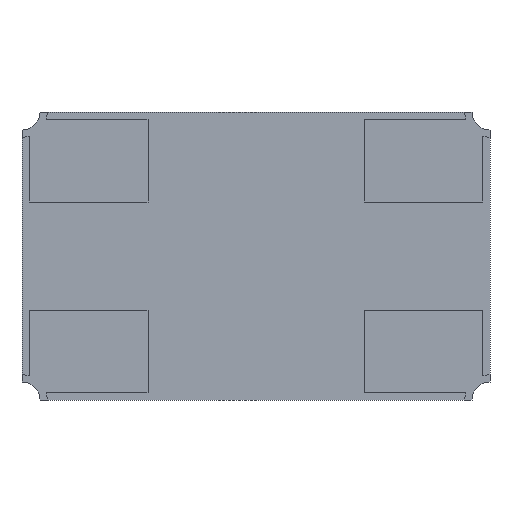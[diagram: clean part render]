
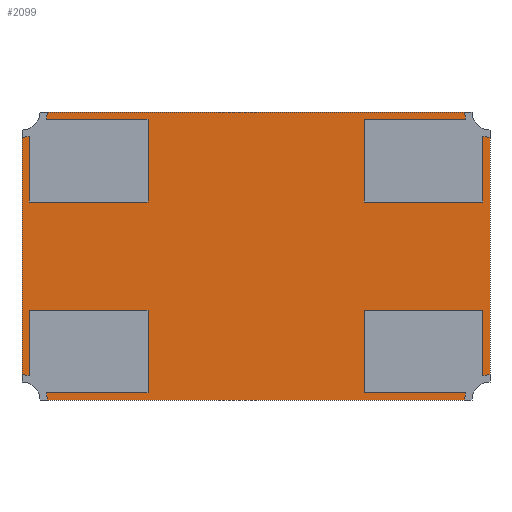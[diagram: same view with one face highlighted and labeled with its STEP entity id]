
A CAD part, front view. The second image highlights one B-rep face of the part: STEP entity #2099.
In plain terms, the highlighted planar face has unit normal (0, -1, 0).
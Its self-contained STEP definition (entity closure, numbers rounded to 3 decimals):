
#1558 = CARTESIAN_POINT ( 'NONE',  ( -3.25, 0.05, -1.75 ) ) ;
#1559 = VERTEX_POINT ( 'NONE', #1558 ) ;
#1560 = CARTESIAN_POINT ( 'NONE',  ( -3., 0.05, -2. ) ) ;
#1561 = VERTEX_POINT ( 'NONE', #1560 ) ;
#1562 = CARTESIAN_POINT ( 'NONE',  ( -3.25, 0.05, -2. ) ) ;
#1563 = DIRECTION ( 'NONE',  ( 0., 1., 0. ) ) ;
#1564 = DIRECTION ( 'NONE',  ( 0., 0., 1. ) ) ;
#1565 = AXIS2_PLACEMENT_3D ( 'NONE', #1562, #1563, #1564 ) ;
#1566 = CIRCLE ( 'NONE', #1565, 0.25) ;
#1567 = EDGE_CURVE ( 'NONE', #1559, #1561, #1566, .T. ) ;
#1822 = CARTESIAN_POINT ( 'NONE',  ( 3., 0.05, 2. ) ) ;
#1823 = VERTEX_POINT ( 'NONE', #1822 ) ;
#1830 = CARTESIAN_POINT ( 'NONE',  ( 3.25, 0.05, 1.75 ) ) ;
#1831 = VERTEX_POINT ( 'NONE', #1830 ) ;
#1832 = CARTESIAN_POINT ( 'NONE',  ( 3.25, 0.05, 2. ) ) ;
#1833 = DIRECTION ( 'NONE',  ( 0., 1., 0. ) ) ;
#1834 = DIRECTION ( 'NONE',  ( 0., 0., 1. ) ) ;
#1835 = AXIS2_PLACEMENT_3D ( 'NONE', #1832, #1833, #1834 ) ;
#1836 = CIRCLE ( 'NONE', #1835, 0.25) ;
#1837 = EDGE_CURVE ( 'NONE', #1831, #1823, #1836, .T. ) ;
#1978 = CARTESIAN_POINT ( 'NONE',  ( 3.25, 0.05, -1.75 ) ) ;
#1979 = VERTEX_POINT ( 'NONE', #1978 ) ;
#1980 = CARTESIAN_POINT ( 'NONE',  ( 3.25, 0.05, 2. ) ) ;
#1981 = DIRECTION ( 'NONE',  ( 0., 0., -1. ) ) ;
#1982 = VECTOR ( 'NONE', #1981, 1000. ) ;
#1983 = LINE ( 'NONE', #1980, #1982 ) ;
#1984 = EDGE_CURVE ( 'NONE', #1831, #1979, #1983, .T. ) ;
#2001 = CARTESIAN_POINT ( 'NONE',  ( 3., 0.05, -2. ) ) ;
#2002 = VERTEX_POINT ( 'NONE', #2001 ) ;
#2009 = CARTESIAN_POINT ( 'NONE',  ( -3.25, 0.05, -2. ) ) ;
#2010 = DIRECTION ( 'NONE',  ( -1., 0., 0. ) ) ;
#2011 = VECTOR ( 'NONE', #2010, 1000. ) ;
#2012 = LINE ( 'NONE', #2009, #2011 ) ;
#2013 = EDGE_CURVE ( 'NONE', #2002, #1561, #2012, .T. ) ;
#2024 = CARTESIAN_POINT ( 'NONE',  ( -3.25, 0.05, 1.75 ) ) ;
#2025 = VERTEX_POINT ( 'NONE', #2024 ) ;
#2026 = CARTESIAN_POINT ( 'NONE',  ( -3.25, 0.05, 2. ) ) ;
#2027 = DIRECTION ( 'NONE',  ( 0., 0., 1. ) ) ;
#2028 = VECTOR ( 'NONE', #2027, 1000. ) ;
#2029 = LINE ( 'NONE', #2026, #2028 ) ;
#2030 = EDGE_CURVE ( 'NONE', #1559, #2025, #2029, .T. ) ;
#2048 = CARTESIAN_POINT ( 'NONE',  ( -3., 0.05, 2. ) ) ;
#2049 = VERTEX_POINT ( 'NONE', #2048 ) ;
#2050 = CARTESIAN_POINT ( 'NONE',  ( -3.25, 0.05, 2. ) ) ;
#2051 = DIRECTION ( 'NONE',  ( 1., 0., 0. ) ) ;
#2052 = VECTOR ( 'NONE', #2051, 1000. ) ;
#2053 = LINE ( 'NONE', #2050, #2052 ) ;
#2054 = EDGE_CURVE ( 'NONE', #2049, #1823, #2053, .T. ) ;
#2072 = ORIENTED_EDGE ( 'NONE', *, *, #1837, .T. ) ;
#2073 = ORIENTED_EDGE ( 'NONE', *, *, #2054, .F. ) ;
#2074 = CARTESIAN_POINT ( 'NONE',  ( -3.25, 0.05, 2. ) ) ;
#2075 = DIRECTION ( 'NONE',  ( 0., 1., 0. ) ) ;
#2076 = DIRECTION ( 'NONE',  ( 0., 0., 1. ) ) ;
#2077 = AXIS2_PLACEMENT_3D ( 'NONE', #2074, #2075, #2076 ) ;
#2078 = CIRCLE ( 'NONE', #2077, 0.25) ;
#2079 = EDGE_CURVE ( 'NONE', #2049, #2025, #2078, .T. ) ;
#2080 = ORIENTED_EDGE ( 'NONE', *, *, #2079, .T. ) ;
#2081 = ORIENTED_EDGE ( 'NONE', *, *, #2030, .F. ) ;
#2082 = ORIENTED_EDGE ( 'NONE', *, *, #1567, .T. ) ;
#2083 = ORIENTED_EDGE ( 'NONE', *, *, #2013, .F. ) ;
#2084 = CARTESIAN_POINT ( 'NONE',  ( 3.25, 0.05, -2. ) ) ;
#2085 = DIRECTION ( 'NONE',  ( 0., -1., 0. ) ) ;
#2086 = DIRECTION ( 'NONE',  ( 0., 0., -1. ) ) ;
#2087 = AXIS2_PLACEMENT_3D ( 'NONE', #2084, #2085, #2086 ) ;
#2088 = CIRCLE ( 'NONE', #2087, 0.25) ;
#2089 = EDGE_CURVE ( 'NONE', #1979, #2002, #2088, .T. ) ;
#2090 = ORIENTED_EDGE ( 'NONE', *, *, #2089, .F. ) ;
#2091 = ORIENTED_EDGE ( 'NONE', *, *, #1984, .F. ) ;
#2092 = EDGE_LOOP ( 'NONE', ( #2072, #2073, #2080, #2081, #2082, #2083, #2090, #2091 ) ) ;
#2093 = FACE_OUTER_BOUND ( 'NONE', #2092, .T. ) ;
#2094 = CARTESIAN_POINT ( 'NONE',  ( 0., 0.05, 0. ) ) ;
#2095 = DIRECTION ( 'NONE',  ( 0., -1., 0. ) ) ;
#2096 = DIRECTION ( 'NONE',  ( 0., 0., -1. ) ) ;
#2097 = AXIS2_PLACEMENT_3D ( 'NONE', #2094, #2095, #2096 ) ;
#2098 = PLANE ( 'NONE', #2097 ) ;
#2099 = ADVANCED_FACE ( 'NONE', ( #2093 ), #2098, .T. ) ;
